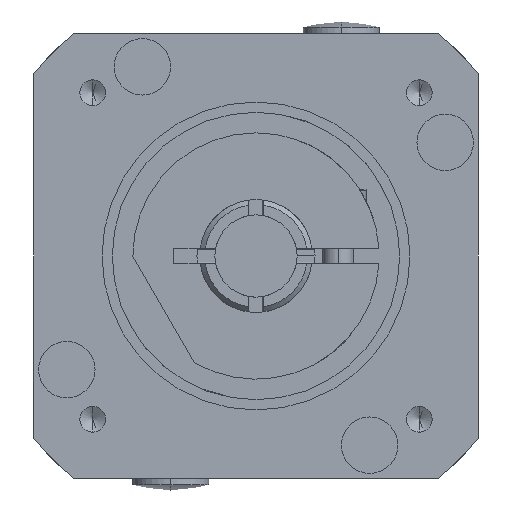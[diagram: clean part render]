
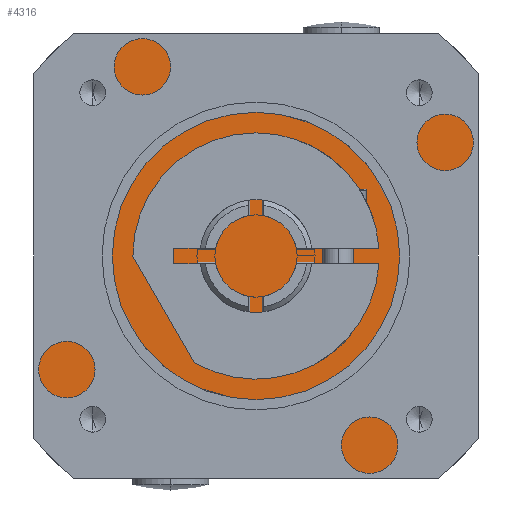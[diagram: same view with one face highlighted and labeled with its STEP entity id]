
A CAD part, left-side view. The second image highlights one B-rep face of the part: STEP entity #4316.
In plain terms, the highlighted planar face has unit normal (-1, 0, 0).
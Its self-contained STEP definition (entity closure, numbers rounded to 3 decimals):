
#186 = AXIS2_PLACEMENT_3D ( 'NONE', #2858, #588, #13233 ) ;
#274 = EDGE_CURVE ( 'NONE', #4192, #7332, #2198, .T. ) ;
#321 = VERTEX_POINT ( 'NONE', #1574 ) ;
#329 = DIRECTION ( 'NONE',  ( 1., 0., 0. ) ) ;
#455 = CARTESIAN_POINT ( 'NONE',  ( -22.5, 0., 0. ) ) ;
#464 = VECTOR ( 'NONE', #2050, 1000. ) ;
#588 = DIRECTION ( 'NONE',  ( 1., 0., 0. ) ) ;
#977 = CARTESIAN_POINT ( 'NONE',  ( -22.5, 11.747, 21.5 ) ) ;
#1176 = CARTESIAN_POINT ( 'NONE',  ( -22.5, -11.747, 21.5 ) ) ;
#1574 = CARTESIAN_POINT ( 'NONE',  ( -22.5, 21.5, -11.747 ) ) ;
#1686 = ORIENTED_EDGE ( 'NONE', *, *, #8167, .F. ) ;
#2050 = DIRECTION ( 'NONE',  ( 0., -1., 0. ) ) ;
#2130 = AXIS2_PLACEMENT_3D ( 'NONE', #2406, #3362, #2317 ) ;
#2198 = LINE ( 'NONE', #3567, #8629 ) ;
#2317 = DIRECTION ( 'NONE',  ( 0., 0., -1. ) ) ;
#2406 = CARTESIAN_POINT ( 'NONE',  ( -22.5, 0., 0. ) ) ;
#2424 = CARTESIAN_POINT ( 'NONE',  ( -22.5, 0., 0. ) ) ;
#2858 = CARTESIAN_POINT ( 'NONE',  ( -22.5, 0., 0. ) ) ;
#2883 = ORIENTED_EDGE ( 'NONE', *, *, #11183, .F. ) ;
#3191 = CARTESIAN_POINT ( 'NONE',  ( -22.5, 21.5, 11.747 ) ) ;
#3297 = CIRCLE ( 'NONE', #5645, 24.5 ) ;
#3362 = DIRECTION ( 'NONE',  ( 1., 0., 0. ) ) ;
#3420 = DIRECTION ( 'NONE',  ( 0., 0., -1. ) ) ;
#3567 = CARTESIAN_POINT ( 'NONE',  ( -22.5, -21.5, 11.747 ) ) ;
#3762 = VERTEX_POINT ( 'NONE', #3191 ) ;
#4192 = VERTEX_POINT ( 'NONE', #7954 ) ;
#4316 = ADVANCED_FACE ( 'NONE', ( #10468 ), #5023, .F. ) ;
#4609 = CARTESIAN_POINT ( 'NONE',  ( -22.5, -21.5, -11.747 ) ) ;
#4701 = CARTESIAN_POINT ( 'NONE',  ( -22.5, 0., 0. ) ) ;
#4729 = CARTESIAN_POINT ( 'NONE',  ( -22.5, 21.5, 11.747 ) ) ;
#4928 = CARTESIAN_POINT ( 'NONE',  ( -22.5, 11.747, -21.5 ) ) ;
#5023 = PLANE ( 'NONE',  #11605 ) ;
#5214 = CARTESIAN_POINT ( 'NONE',  ( -22.5, 11.747, 21.5 ) ) ;
#5645 = AXIS2_PLACEMENT_3D ( 'NONE', #455, #329, #13147 ) ;
#5695 = DIRECTION ( 'NONE',  ( 1., 0., 0. ) ) ;
#6331 = VERTEX_POINT ( 'NONE', #7517 ) ;
#7302 = ORIENTED_EDGE ( 'NONE', *, *, #11410, .F. ) ;
#7332 = VERTEX_POINT ( 'NONE', #4609 ) ;
#7468 = EDGE_CURVE ( 'NONE', #13014, #6331, #9414, .T. ) ;
#7517 = CARTESIAN_POINT ( 'NONE',  ( -22.5, 11.747, -21.5 ) ) ;
#7582 = CIRCLE ( 'NONE', #186, 24.5 ) ;
#7900 = EDGE_CURVE ( 'NONE', #321, #3762, #8085, .T. ) ;
#7954 = CARTESIAN_POINT ( 'NONE',  ( -22.5, -21.5, 11.747 ) ) ;
#8085 = LINE ( 'NONE', #4729, #10212 ) ;
#8167 = EDGE_CURVE ( 'NONE', #12455, #13487, #11861, .T. ) ;
#8226 = AXIS2_PLACEMENT_3D ( 'NONE', #4701, #5695, #11015 ) ;
#8629 = VECTOR ( 'NONE', #10942, 1000. ) ;
#8759 = CARTESIAN_POINT ( 'NONE',  ( -22.5, -11.747, -21.5 ) ) ;
#9232 = CIRCLE ( 'NONE', #2130, 24.5 ) ;
#9366 = ORIENTED_EDGE ( 'NONE', *, *, #11273, .F. ) ;
#9414 = LINE ( 'NONE', #4928, #9883 ) ;
#9559 = CIRCLE ( 'NONE', #8226, 24.5 ) ;
#9883 = VECTOR ( 'NONE', #12359, 1000. ) ;
#10199 = DIRECTION ( 'NONE',  ( 1., 0., 0. ) ) ;
#10212 = VECTOR ( 'NONE', #13165, 1000. ) ;
#10326 = ORIENTED_EDGE ( 'NONE', *, *, #7468, .F. ) ;
#10468 = FACE_OUTER_BOUND ( 'NONE', #11897, .T. ) ;
#10813 = EDGE_CURVE ( 'NONE', #13487, #4192, #3297, .T. ) ;
#10942 = DIRECTION ( 'NONE',  ( 0., 0., -1. ) ) ;
#11015 = DIRECTION ( 'NONE',  ( 0., 0., -1. ) ) ;
#11183 = EDGE_CURVE ( 'NONE', #7332, #13014, #9232, .T. ) ;
#11273 = EDGE_CURVE ( 'NONE', #6331, #321, #9559, .T. ) ;
#11279 = ORIENTED_EDGE ( 'NONE', *, *, #10813, .F. ) ;
#11410 = EDGE_CURVE ( 'NONE', #3762, #12455, #7582, .T. ) ;
#11605 = AXIS2_PLACEMENT_3D ( 'NONE', #2424, #10199, #3420 ) ;
#11861 = LINE ( 'NONE', #977, #464 ) ;
#11897 = EDGE_LOOP ( 'NONE', ( #7302, #13000, #9366, #10326, #2883, #11932, #11279, #1686 ) ) ;
#11932 = ORIENTED_EDGE ( 'NONE', *, *, #274, .F. ) ;
#12359 = DIRECTION ( 'NONE',  ( 0., 1., 0. ) ) ;
#12455 = VERTEX_POINT ( 'NONE', #5214 ) ;
#13000 = ORIENTED_EDGE ( 'NONE', *, *, #7900, .F. ) ;
#13014 = VERTEX_POINT ( 'NONE', #8759 ) ;
#13147 = DIRECTION ( 'NONE',  ( 0., 0., -1. ) ) ;
#13165 = DIRECTION ( 'NONE',  ( 0., 0., 1. ) ) ;
#13233 = DIRECTION ( 'NONE',  ( 0., 0., -1. ) ) ;
#13487 = VERTEX_POINT ( 'NONE', #1176 ) ;
